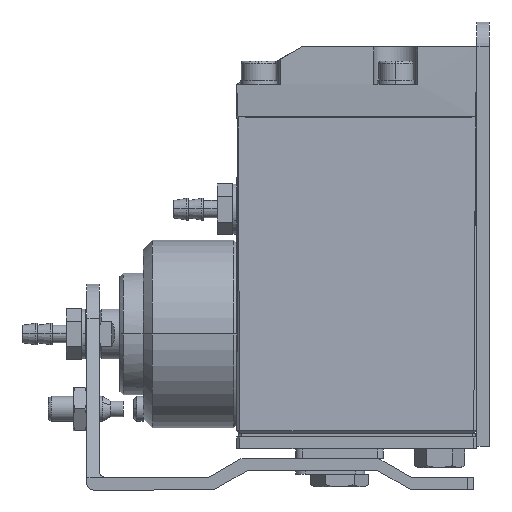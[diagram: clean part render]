
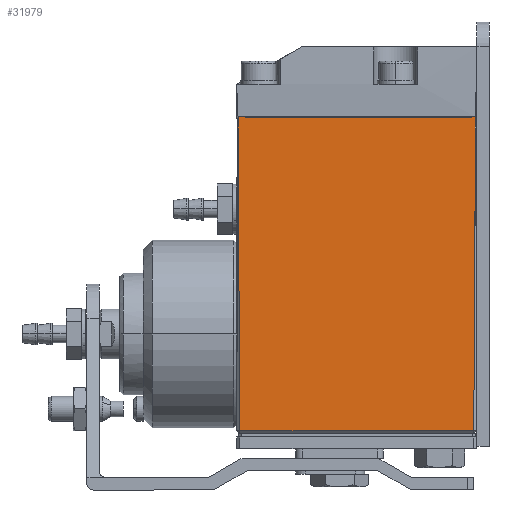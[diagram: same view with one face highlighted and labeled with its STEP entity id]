
A CAD part, left-side view. The second image highlights one B-rep face of the part: STEP entity #31979.
In plain terms, the highlighted planar face has unit normal (-1, 0, 0).
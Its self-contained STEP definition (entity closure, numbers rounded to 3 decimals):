
#860 = CARTESIAN_POINT ( 'NONE',  ( 0., 38., 25.5 ) ) ;
#3111 = VERTEX_POINT ( 'NONE', #50235 ) ;
#5533 = LINE ( 'NONE', #11681, #27198 ) ;
#7783 = VERTEX_POINT ( 'NONE', #45285 ) ;
#8516 = CARTESIAN_POINT ( 'NONE',  ( 0., -3.25, -4.5 ) ) ;
#9898 = LINE ( 'NONE', #29991, #20060 ) ;
#10753 = EDGE_CURVE ( 'NONE', #38877, #30499, #47659, .T. ) ;
#11681 = CARTESIAN_POINT ( 'NONE',  ( 0., 0.5, 25.5 ) ) ;
#12678 = PLANE ( 'NONE',  #24036 ) ;
#12873 = DIRECTION ( 'NONE',  ( 0., 0., 1. ) ) ;
#19082 = EDGE_CURVE ( 'NONE', #7783, #30499, #31281, .T. ) ;
#19920 = CARTESIAN_POINT ( 'NONE',  ( 0.185, 38.28, 50.78 ) ) ;
#20060 = VECTOR ( 'NONE', #21530, 1000. ) ;
#20152 = ORIENTED_EDGE ( 'NONE', *, *, #19082, .F. ) ;
#21530 = DIRECTION ( 'NONE',  ( 0., 1., 0. ) ) ;
#22311 = EDGE_CURVE ( 'NONE', #3111, #38877, #9898, .T. ) ;
#24036 = AXIS2_PLACEMENT_3D ( 'NONE', #8516, #38677, #12873 ) ;
#26106 = VECTOR ( 'NONE', #31039, 1000. ) ;
#26939 = EDGE_CURVE ( 'NONE', #7783, #3111, #5533, .T. ) ;
#27198 = VECTOR ( 'NONE', #54858, 1000. ) ;
#29991 = CARTESIAN_POINT ( 'NONE',  ( 0., 19.25, 50.5 ) ) ;
#30499 = VERTEX_POINT ( 'NONE', #46669 ) ;
#31039 = DIRECTION ( 'NONE',  ( 0., 0., -1. ) ) ;
#31281 = LINE ( 'NONE', #45328, #52850 ) ;
#31979 = ADVANCED_FACE ( 'NONE', ( #46764 ), #12678, .T. ) ;
#36065 = ORIENTED_EDGE ( 'NONE', *, *, #10753, .T. ) ;
#38677 = DIRECTION ( 'NONE',  ( -1., 0., 0. ) ) ;
#38877 = VERTEX_POINT ( 'NONE', #19920 ) ;
#40952 = DIRECTION ( 'NONE',  ( 0., 1., 0. ) ) ;
#41260 = ORIENTED_EDGE ( 'NONE', *, *, #22311, .T. ) ;
#45285 = CARTESIAN_POINT ( 'NONE',  ( 0., 0.5, 0.5 ) ) ;
#45328 = CARTESIAN_POINT ( 'NONE',  ( 0., 19.25, 0.5 ) ) ;
#46598 = EDGE_LOOP ( 'NONE', ( #53503, #41260, #36065, #20152 ) ) ;
#46669 = CARTESIAN_POINT ( 'NONE',  ( 0., 38., 0.5 ) ) ;
#46764 = FACE_OUTER_BOUND ( 'NONE', #46598, .T. ) ;
#47659 = LINE ( 'NONE', #860, #26106 ) ;
#50235 = CARTESIAN_POINT ( 'NONE',  ( 0.185, 0.22, 50.78 ) ) ;
#52850 = VECTOR ( 'NONE', #40952, 1000. ) ;
#53503 = ORIENTED_EDGE ( 'NONE', *, *, #26939, .T. ) ;
#54858 = DIRECTION ( 'NONE',  ( 0., 0., 1. ) ) ;
